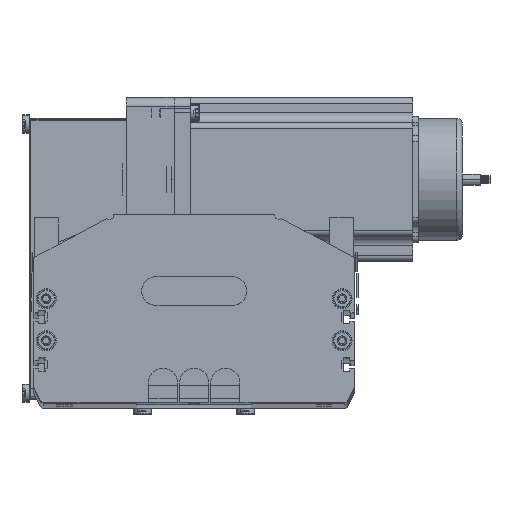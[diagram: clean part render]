
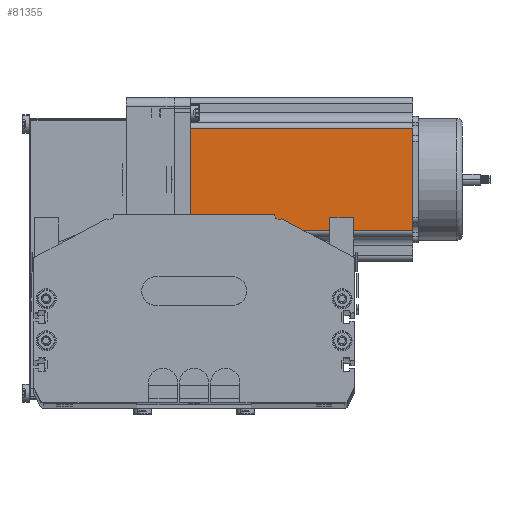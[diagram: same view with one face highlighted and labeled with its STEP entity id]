
A CAD part, top view. The second image highlights one B-rep face of the part: STEP entity #81355.
In plain terms, the highlighted planar face has unit normal (0, 0, 1) as drawn and (0, -1, 0) by its records, which use the part's own axes.
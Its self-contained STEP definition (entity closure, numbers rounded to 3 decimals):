
#16803 = CARTESIAN_POINT ( 'NONE',  ( 16.16, 0., 0. ) ) ;
#17025 = CARTESIAN_POINT ( 'NONE',  ( 69.74, 0., 0. ) ) ;
#17265 = DIRECTION ( 'NONE',  ( 1., 0., 0. ) ) ;
#17266 = VECTOR ( 'NONE', #17265, 1000. ) ;
#17267 = CARTESIAN_POINT ( 'NONE',  ( 0., 0., 0. ) ) ;
#17269 = LINE ( 'NONE', #17267, #17266 ) ;
#17271 = DIRECTION ( 'NONE',  ( 0., 0., 1. ) ) ;
#17273 = VECTOR ( 'NONE', #17271, 1000. ) ;
#17274 = CARTESIAN_POINT ( 'NONE',  ( 69.74, 0., 116.5 ) ) ;
#17275 = LINE ( 'NONE', #17274, #17273 ) ;
#17568 = PLANE ( 'NONE',  #17572 ) ;
#17572 = AXIS2_PLACEMENT_3D ( 'NONE', #17620, #17618, #17596 ) ;
#17596 = DIRECTION ( 'NONE',  ( 0., 0., 1. ) ) ;
#17607 = FACE_OUTER_BOUND ( 'NONE', #80852, .T. ) ;
#17618 = DIRECTION ( 'NONE',  ( 0., 1., 0. ) ) ;
#17620 = CARTESIAN_POINT ( 'NONE',  ( 0., 0., 116.5 ) ) ;
#33758 = VERTEX_POINT ( 'NONE', #66290 ) ;
#33839 = VERTEX_POINT ( 'NONE', #66276 ) ;
#44137 = ORIENTED_EDGE ( 'NONE', *, *, #44222, .T. ) ;
#44222 = EDGE_CURVE ( 'NONE', #33839, #80997, #84439, .T. ) ;
#44223 = EDGE_CURVE ( 'NONE', #33839, #33758, #84507, .T. ) ;
#44226 = ORIENTED_EDGE ( 'NONE', *, *, #44223, .F. ) ;
#66276 = CARTESIAN_POINT ( 'NONE',  ( 16.16, 0., 116.5 ) ) ;
#66290 = CARTESIAN_POINT ( 'NONE',  ( 69.74, 0., 116.5 ) ) ;
#80852 = EDGE_LOOP ( 'NONE', ( #81403, #81009, #44226, #44137 ) ) ;
#80997 = VERTEX_POINT ( 'NONE', #16803 ) ;
#81009 = ORIENTED_EDGE ( 'NONE', *, *, #81257, .T. ) ;
#81132 = VERTEX_POINT ( 'NONE', #17025 ) ;
#81257 = EDGE_CURVE ( 'NONE', #81132, #33758, #17275, .T. ) ;
#81258 = EDGE_CURVE ( 'NONE', #80997, #81132, #17269, .T. ) ;
#81355 = ADVANCED_FACE ( 'NONE', ( #17607 ), #17568, .F. ) ;
#81403 = ORIENTED_EDGE ( 'NONE', *, *, #81258, .T. ) ;
#84439 = LINE ( 'NONE', #84511, #84503 ) ;
#84497 = DIRECTION ( 'NONE',  ( 1., 0., 0. ) ) ;
#84498 = VECTOR ( 'NONE', #84497, 1000. ) ;
#84499 = CARTESIAN_POINT ( 'NONE',  ( 0., 0., 116.5 ) ) ;
#84501 = DIRECTION ( 'NONE',  ( 0., 0., -1. ) ) ;
#84503 = VECTOR ( 'NONE', #84501, 1000. ) ;
#84507 = LINE ( 'NONE', #84499, #84498 ) ;
#84511 = CARTESIAN_POINT ( 'NONE',  ( 16.16, 0., 116.5 ) ) ;
